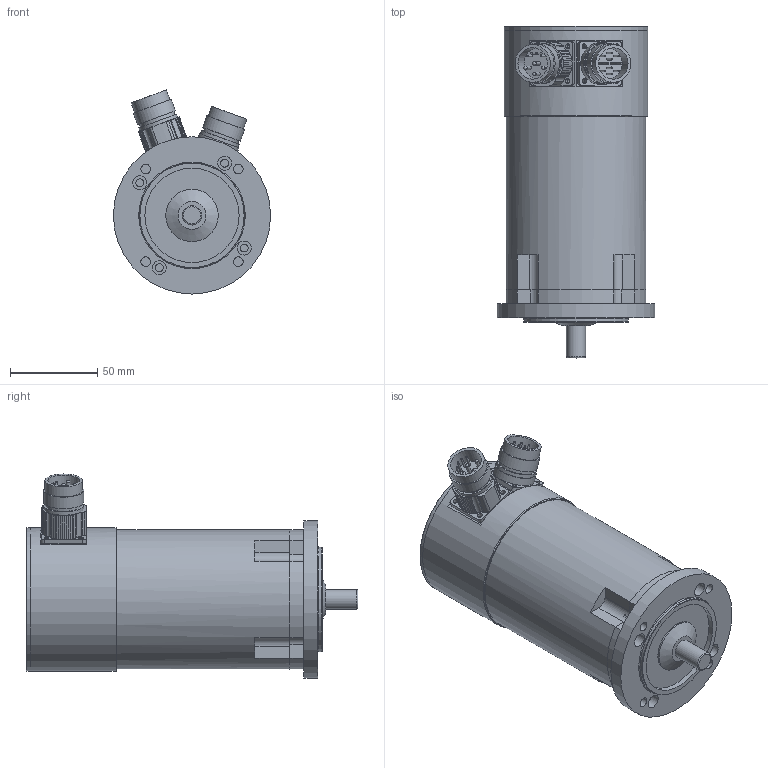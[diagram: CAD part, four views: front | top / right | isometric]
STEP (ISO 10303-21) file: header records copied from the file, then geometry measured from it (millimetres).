
FILE_DESCRIPTION(/* description */ (''),/* implementation_level */ '2;1');
FILE_NAME(/* name */ 'ksy_268e_r4',/* time_stamp */ '2007-03-16T13:22:41+01:00',/* author */ (''),/* organization */ (''),/* preprocessor_version */ 'ST-DEVELOPER v8',/* originating_system */ 'UNIGRAPHICS SOLUTIONS - UNIGRAPHICS 18.0',/* authorisation */ '');
FILE_SCHEMA (('AUTOMOTIVE_DESIGN { 1 2 10303 214 0 1 1 1 }'));
Length unit declared in the file: millimetre
Products named in the file (10): 06330301_0; DIN3760_org_A12x24x7_0; 014261_0; 014260_0; 064260_0; 112073_0; Rotor_SY 26.. E_0; Gehaeuse_SY26.. E_0; 112072_0; KSY264_E-R4_0
Assembly tree (9 placements, depth 2):
  KSY264_E-R4_0
    112072_0
    Gehaeuse_SY26.. E_0
    Rotor_SY 26.. E_0
    112073_0
    064260_0
    014260_0
    014261_0
    DIN3760_org_A12x24x7_0
    06330301_0
Bounding box: 90 x 190 x 116.8 mm (x, y, z)
Volume: 498329.3 mm3; surface area: 136094.7 mm2
Topology: 9 solids, 9 shells, 401 faces, 1012 edges, 649 vertices
Faces by surface type: cylinder 202, plane 116, cone 52, sphere 20, torus 11
Full cylindrical faces by diameter (mm): 1 x16, 2 x4, 2.135 x8, 2.459 x4, 2.7 x8, 3.4 x7, 3.432 x3, 3.5 x4, 4.5 x4, 5.5 x4, 6 x7, 8 x4, 10.52 x1, 10.94 x1, 11 x1, 12 x2, 12.3 x1, 18 x2, 20 x4, 21 x3, 21.5 x2, 22.5 x1, 23 x4, 24 x3, 26 x1, 30 x1, 32 x1, 36 x1, 36.83 x1, 53 x1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
Entity records: 10678 total; most frequent: DIRECTION 1991, CARTESIAN_POINT 1723, ORIENTED_EDGE 1372, AXIS2_PLACEMENT_3D 902, EDGE_LOOP 723, EDGE_CURVE 686, VERTEX_POINT 562, CIRCLE 491
